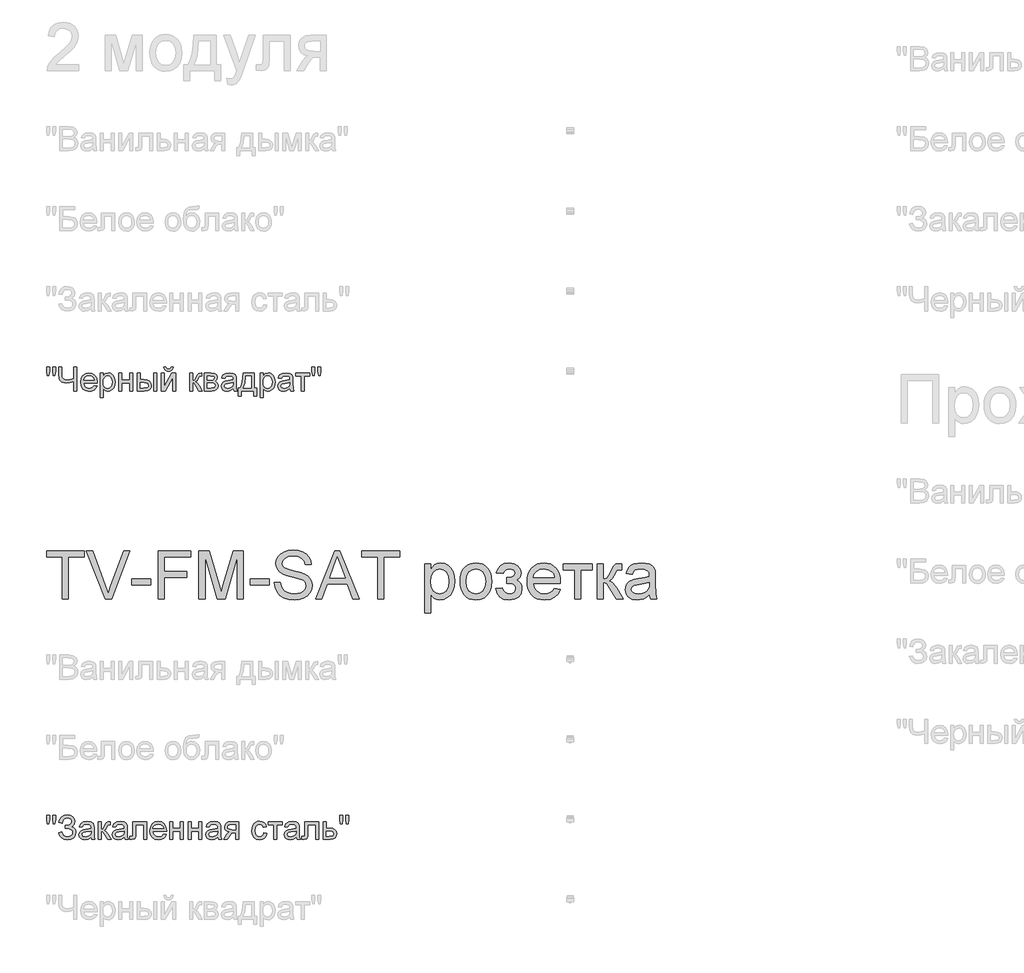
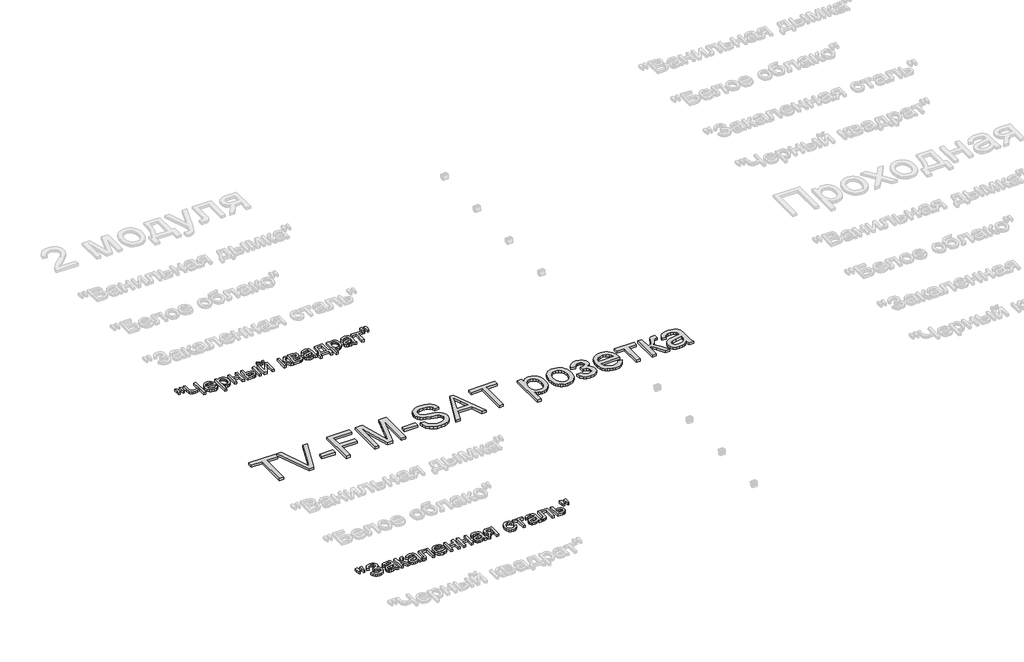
# One storey, part 21 of 168: 3 proxies.
"""IFC4 building model written with IfcOpenShell, lengths in millimetres."""

from ifc_helpers import new_model, si_unit, origin, origin_with_axes, place, context, project, spatial, polyline, outline, extrude, element, save

model = new_model("IFC4")

# Units and contexts
model_context = context("Model", 3, world=origin())
ifc_project = project(units=[si_unit("LENGTHUNIT", "METRE", prefix="MILLI")], contexts=[model_context])

# Site, building, storey
site = spatial("IfcSite", under=ifc_project)
building = spatial("IfcBuilding", under=site)
storey = spatial("IfcBuildingStorey", under=building, Name="Этаж 01", Elevation=0.0)

# Proxies
placement = place(None, origin())
element("IfcBuildingElementProxy", 1, Name="300 мм Arial 2", ObjectType="300 мм Arial 2", at=placement, inside=storey, context=model_context, shape_type="SweptSolid", body=[
    extrude(outline(polyline([(49174.4367343, -54566.8622977), (49174.4367343, -54303.1644836), (49075.550054, -54303.1644836), (49075.550054, -54265.4933673), (49310.9945309, -54265.4933673), (49310.9945309, -54303.1644836), (49212.1078506, -54303.1644836), (49212.1078506, -54566.8622977), (49174.4367343, -54566.8622977)])), origin_with_axes(), (0.0, 0.0, 1.0), 20.0),
    extrude(outline(polyline([(49442.4019796, -54566.8622977), (49322.4724491, -54265.4933673), (49362.7923158, -54265.4933673), (49443.0641671, -54482.6173208), (49459.3245513, -54531.5456262), (49475.3642063, -54482.6173208), (49555.8567869, -54265.4933673), (49596.1766535, -54265.4933673), (49481.3238946, -54566.8622977), (49442.4019796, -54566.8622977)])), origin_with_axes(), (0.0, 0.0, 1.0), 20.0),
    extrude(outline(polyline([(49607.6545718, -54477.3933965), (49607.6545718, -54439.7222802), (49725.3768102, -54439.7222802), (49725.3768102, -54477.3933965), (49607.6545718, -54477.3933965)])), origin_with_axes(), (0.0, 0.0, 1.0), 20.0),
    extrude(outline(polyline([(49772.4657056, -54566.8622977), (49772.4657056, -54265.4933673), (49974.9479558, -54265.4933673), (49974.9479558, -54303.1644836), (49810.1368219, -54303.1644836), (49810.1368219, -54392.6333848), (49951.4035081, -54392.6333848), (49951.4035081, -54430.3045011), (49810.1368219, -54430.3045011), (49810.1368219, -54566.8622977), (49772.4657056, -54566.8622977)])), origin_with_axes(), (0.0, 0.0, 1.0), 20.0),
    extrude(outline(polyline([(50026.7457407, -54566.8622977), (50026.7457407, -54265.4933673), (50091.5665482, -54265.4933673), (50153.2235706, -54477.9084313), (50165.6579821, -54522.2749999), (50179.1224631, -54474.2296113), (50239.7494159, -54265.4933673), (50304.5702235, -54265.4933673), (50304.5702235, -54566.8622977), (50266.8991071, -54566.8622977), (50266.8991071, -54303.1644836), (50191.1889925, -54566.8622977), (50140.1269716, -54566.8622977), (50064.416857, -54303.1644836), (50064.416857, -54566.8622977), (50026.7457407, -54566.8622977)])), origin_with_axes(), (0.0, 0.0, 1.0), 20.0),
    extrude(outline(polyline([(50346.9502293, -54477.3933965), (50346.9502293, -54439.7222802), (50464.6724678, -54439.7222802), (50464.6724678, -54477.3933965), (50346.9502293, -54477.3933965)])), origin_with_axes(), (0.0, 0.0, 1.0), 20.0),
    extrude(outline(polyline([(50497.6346945, -54463.2667279), (50535.3058108, -54463.2667279), (50539.6284243, -54484.1716223), (50547.4459167, -54500.9746324), (50559.6412048, -54514.3103547), (50577.0972055, -54524.8133857), (50598.4343612, -54531.6283996), (50622.2731145, -54533.900071), (50643.2607823, -54532.1802226), (50661.636488, -54527.0206777), (50676.5265117, -54518.8536974), (50687.0571338, -54508.1115431), (50693.3203248, -54495.7782992), (50695.4080551, -54482.83805), (50693.8445566, -54470.2288947), (50689.1540612, -54459.3303905), (50679.6259175, -54450.0321731), (50663.5494743, -54442.2238778), (50608.6982689, -54427.8396918), (50572.6918186, -54418.3207451), (50549.6532086, -54409.261651), (50530.9004239, -54396.5881163), (50517.6106869, -54381.229043), (50509.6920269, -54363.5155249), (50507.0524736, -54343.7786559), (50510.3174263, -54321.7149332), (50520.1122844, -54301.1411326), (50536.1795306, -54283.703526), (50558.2616473, -54271.0483854), (50584.7675451, -54263.3504547), (50614.1061342, -54260.7844777), (50645.8911386, -54263.4700163), (50673.7030174, -54271.526632), (50696.5484893, -54284.7887779), (50713.4342729, -54303.0909072), (50724.1212449, -54325.2925856), (50728.3702819, -54350.253379), (50690.6991656, -54350.253379), (50683.7829841, -54327.7757891), (50669.3620099, -54311.5521931), (50646.8292377, -54301.7297438), (50615.5776622, -54298.4555941), (50583.5903227, -54301.6929556), (50561.6461617, -54311.4050403), (50548.9542328, -54325.6972558), (50544.7235899, -54342.6750099), (50547.7218282, -54357.1511664), (50556.7165429, -54368.7946315), (50577.9801223, -54379.205692), (50618.2264125, -54389.8374817), (50659.7602898, -54399.9358424), (50684.8866301, -54408.7466162), (50706.3617415, -54422.4134323), (50721.3437358, -54439.2808218), (50730.1453125, -54459.1648436), (50733.0791714, -54481.8815568), (50729.7038541, -54505.1041078), (50719.5779022, -54526.9471013), (50703.1151829, -54545.7458712), (50680.7295635, -54559.8357516), (50653.8097985, -54568.6373284), (50623.7446425, -54571.5711873), (50586.8368813, -54568.4074021), (50556.4590256, -54558.9160466), (50532.2615873, -54543.0603326), (50513.8950787, -54520.8034719), (50502.1044608, -54493.6905689), (50497.6346945, -54463.2667279)])), origin_with_axes(), (0.0, 0.0, 1.0), 20.0),
    extrude(outline(polyline([(50754.4899036, -54566.8622977), (50874.787316, -54265.4933673), (50906.866626, -54265.4933673), (51027.1640384, -54566.8622977), (50987.3592065, -54566.8622977), (50952.8518754, -54472.684507), (50828.7284902, -54472.684507), (50794.2947354, -54566.8622977), (50754.4899036, -54566.8622977)]), holes=[polyline([(50842.5608532, -54435.0133907), (50939.0930887, -54435.0133907), (50911.9433975, -54360.9219568), (50890.826971, -54303.1644836), (50872.0649892, -54354.4472337), (50842.5608532, -54435.0133907)])]), origin_with_axes(), (0.0, 0.0, 1.0), 20.0),
    extrude(outline(polyline([(51142.7525613, -54566.8622977), (51142.7525613, -54303.1644836), (51043.865881, -54303.1644836), (51043.865881, -54265.4933673), (51279.3103579, -54265.4933673), (51279.3103579, -54303.1644836), (51180.4236776, -54303.1644836), (51180.4236776, -54566.8622977), (51142.7525613, -54566.8622977)])), origin_with_axes(), (0.0, 0.0, 1.0), 20.0),
    extrude(outline(polyline([(51434.7037126, -54651.6223094), (51434.7037126, -54345.5444894), (51472.3748289, -54345.5444894), (51472.3748289, -54382.4798418), (51484.6620876, -54364.2604859), (51498.4208742, -54351.2466604), (51514.4605292, -54343.438365), (51533.5903929, -54340.8355999), (51559.0662211, -54344.4776316), (51581.3414759, -54355.4037269), (51599.4780583, -54372.9516981), (51612.5378691, -54396.4593576), (51620.4289379, -54424.2160541), (51623.0592942, -54454.5111364), (51620.0886471, -54486.7284021), (51611.1767057, -54515.5427594), (51596.6085787, -54539.4918773), (51576.6693746, -54557.1134249), (51553.4468236, -54567.9567467), (51529.0286562, -54571.5711873), (51511.7106113, -54569.1523632), (51496.2503704, -54561.8958908), (51483.0158157, -54550.9422044), (51472.3748289, -54537.4317381), (51472.3748289, -54651.6223094), (51434.7037126, -54651.6223094)]), holes=[polyline([(51472.3748289, -54457.9692272), (51476.449122, -54491.7407943), (51488.6720013, -54515.3588184), (51506.7074161, -54529.2647578), (51528.2193158, -54533.900071), (51550.0807034, -54529.0992109), (51568.5759707, -54514.6966308), (51581.1851261, -54490.214084), (51585.3881779, -54455.173324), (51581.2862936, -54421.5856978), (51568.9806409, -54397.63658), (51550.9728172, -54383.2891821), (51529.7644202, -54378.5067162), (51508.4732497, -54383.5926848), (51489.7756473, -54398.8505905), (51476.7250335, -54423.8021869), (51472.3748289, -54457.9692272)])]), origin_with_axes(), (0.0, 0.0, 1.0), 20.0),
    extrude(outline(polyline([(51656.0215209, -54456.2033936), (51658.0586675, -54427.5407876), (51664.1701071, -54402.8421102), (51674.3558399, -54382.1073612), (51688.6158657, -54365.3365408), (51702.9724606, -54354.6173791), (51718.8189775, -54346.9608351), (51736.1554165, -54342.3669087), (51754.9817776, -54340.8355999), (51775.7648111, -54342.7003018), (51794.5566833, -54348.2944073), (51811.3573941, -54357.6179167), (51826.1669437, -54370.6708297), (51838.2541665, -54387.0116881), (51846.8878971, -54406.1990334), (51852.0681354, -54428.2328656), (51853.7948815, -54453.1131848), (51850.741461, -54491.1705772), (51841.5811993, -54520.1412843), (51826.5808109, -54541.837125), (51806.0070104, -54558.069918), (51781.5704488, -54568.19587), (51754.9817776, -54571.5711873), (51733.8952415, -54569.7133832), (51714.9286254, -54564.139971), (51698.0819293, -54554.8509506), (51683.3551532, -54541.8463221), (51671.3966891, -54525.3468146), (51662.854929, -54505.5731573), (51657.7298729, -54482.5253503), (51656.0215209, -54456.2033936)]), holes=[polyline([(51693.6926372, -54456.1298172), (51698.0520389, -54490.2232811), (51711.1302438, -54514.5126898), (51730.8119306, -54529.0532257), (51754.9817776, -54533.900071), (51779.0412601, -54529.0256345), (51798.6861587, -54514.4023252), (51811.7643636, -54489.7910197), (51816.1237652, -54454.9525948), (51811.7367724, -54421.8524123), (51798.5757941, -54397.8940973), (51778.9033044, -54383.3535615), (51754.9817776, -54378.5067162), (51730.8119306, -54383.3351674), (51711.1302438, -54397.820521), (51698.0520389, -54422.0547474), (51693.6926372, -54456.1298172)])]), origin_with_axes(), (0.0, 0.0, 1.0), 20.0),
    extrude(outline(polyline([(51947.9726723, -54467.9756174), (51947.9726723, -54430.3045011), (51977.6975375, -54428.8329731), (51992.7071229, -54420.9970866), (51998.0046237, -54413.6486438), (51999.7704572, -54404.6263379), (51997.4068154, -54393.9117748), (51990.31589, -54385.6068387), (51979.4909622, -54380.2817468), (51965.9253137, -54378.5067162), (51952.2125123, -54380.2725498), (51940.725397, -54385.5700505), (51931.4639678, -54394.3992184), (51924.4282246, -54406.7600534), (51882.0482188, -54402.0511639), (51893.2870137, -54375.2693546), (51910.3751324, -54356.1394909), (51933.3125748, -54344.6615726), (51962.0993409, -54340.8355999), (51993.5900397, -54345.4985042), (52017.428793, -54359.4872171), (52032.4383784, -54379.950653), (52037.4415735, -54404.0377267), (52035.6619444, -54416.3985617), (52030.3230569, -54427.4350216), (52021.4249112, -54437.1471062), (52008.9675071, -54445.5348157), (52023.508043, -54456.0010585), (52033.8731182, -54469.005687), (52040.0811268, -54484.5854895), (52042.1504631, -54502.7772542), (52036.8989476, -54530.5063596), (52021.1444011, -54552.4781117), (51995.9536815, -54566.7979184), (51962.3936465, -54571.5711873), (51929.5693755, -54567.1566033), (51904.4522323, -54553.9128515), (51887.0422169, -54531.8399318), (51877.3393292, -54500.9378442), (51919.7193351, -54496.2289547), (51926.0652995, -54512.1582451), (51936.7154833, -54524.0408335), (51950.4374817, -54531.4352616), (51965.9988901, -54533.900071), (51981.1556283, -54531.5364291), (51993.5164633, -54524.4455037), (52001.7386259, -54513.6757583), (52004.4793468, -54500.2756566), (52002.7778925, -54489.662261), (51997.6735299, -54480.4836053), (51983.1789792, -54469.8886038), (51955.3303122, -54467.7548882), (51947.9726723, -54467.9756174)])), origin_with_axes(), (0.0, 0.0, 1.0), 20.0),
    extrude(outline(polyline([(52244.1912548, -54500.9378442), (52281.1266071, -54505.6467337), (52267.818476, -54533.4770067), (52246.5824878, -54554.2807335), (52217.8968892, -54567.2485738), (52182.2399268, -54571.5711873), (52158.8656246, -54569.7064854), (52138.0389051, -54564.1123798), (52119.7597685, -54554.7888705), (52104.0282147, -54541.7359575), (52091.3776726, -54525.3169242), (52082.341571, -54505.8950541), (52076.9199101, -54483.4703472), (52075.1126898, -54458.0428036), (52076.9383042, -54431.7530365), (52082.4151474, -54408.5810693), (52091.5432194, -54388.526902), (52104.3225203, -54371.5905347), (52120.0126874, -54358.1352507), (52137.8733582, -54348.5243336), (52157.9045329, -54342.7577833), (52180.1062113, -54340.8355999), (52201.592819, -54342.7531848), (52221.0238862, -54348.5059395), (52238.3994127, -54358.093864), (52253.7193985, -54371.5169583), (52266.2250871, -54388.4165374), (52275.1577218, -54408.4339165), (52280.5173026, -54431.5690955), (52282.3038295, -54457.8220744), (52282.0831003, -54467.9756174), (52112.7838061, -54467.9756174), (52119.3045145, -54496.1737724), (52134.4520557, -54516.9039228), (52156.3134432, -54529.6510339), (52182.9756908, -54533.900071), (52203.0252596, -54531.9319023), (52219.9110431, -54526.0273963), (52233.6330416, -54515.8186709), (52244.1912548, -54500.9378442)]), holes=[polyline([(52112.7838061, -54430.3045011), (52244.6327132, -54430.3045011), (52239.5375476, -54410.4020852), (52229.5495514, -54396.165052), (52207.5869963, -54382.9213001), (52179.9590585, -54378.5067162), (52154.5660037, -54382.0291863), (52133.5691389, -54392.5965966), (52118.9734207, -54409.068513), (52112.7838061, -54430.3045011)])]), origin_with_axes(), (0.0, 0.0, 1.0), 20.0),
    extrude(outline(polyline([(52301.1393877, -54345.5444894), (52480.0771901, -54345.5444894), (52480.0771901, -54383.2156057), (52409.4438471, -54383.2156057), (52409.4438471, -54566.8622977), (52371.7727308, -54566.8622977), (52371.7727308, -54383.2156057), (52301.1393877, -54383.2156057), (52301.1393877, -54345.5444894)])), origin_with_axes(), (0.0, 0.0, 1.0), 20.0),
    extrude(outline(polyline([(52513.0394169, -54345.5444894), (52550.7105332, -54345.5444894), (52550.7105332, -54439.7222802), (52566.0328183, -54438.030023), (52575.9472381, -54432.9532515), (52584.7212237, -54419.7094997), (52596.6222062, -54393.5163016), (52613.8022954, -54359.4872171), (52628.9590336, -54348.413969), (52656.513395, -54345.5444894), (52663.7238821, -54345.5444894), (52663.7238821, -54383.4363349), (52653.5703391, -54383.2156057), (52635.1762393, -54387.1887313), (52622.2267931, -54411.9839778), (52607.0332667, -54438.8025752), (52585.7328991, -54451.9359624), (52597.6706699, -54457.2380617), (52609.498076, -54466.5960599), (52632.8217945, -54497.4797534), (52673.1416612, -54566.8622977), (52630.320197, -54566.8622977), (52590.8096707, -54498.9512814), (52570.9440429, -54470.2196976), (52561.6550226, -54465.0049703), (52550.7105332, -54463.2667279), (52550.7105332, -54566.8622977), (52513.0394169, -54566.8622977), (52513.0394169, -54345.5444894)])), origin_with_axes(), (0.0, 0.0, 1.0), 20.0),
    extrude(outline(polyline([(52837.952795, -54538.6089605), (52819.9541684, -54554.0416102), (52801.4221129, -54564.139971), (52781.9335642, -54569.7133832), (52761.065458, -54571.5711873), (52729.5839563, -54567.101421), (52706.3614054, -54553.6921223), (52692.0415987, -54533.3298539), (52687.2683298, -54508.0011785), (52689.0709516, -54492.3845878), (52694.4788169, -54478.2027369), (52702.8205412, -54466.0626311), (52713.4247397, -54456.5712756), (52739.8018787, -54444.2104405), (52772.3962235, -54438.5450578), (52810.9134684, -54432.5853695), (52837.7320658, -54425.5956116), (52837.952795, -54417.2079021), (52835.359227, -54400.3956949), (52827.5785228, -54389.3960233), (52810.1777044, -54381.229043), (52785.9342809, -54378.5067162), (52763.4934792, -54380.318535), (52747.8217062, -54385.7539915), (52737.1347343, -54395.806367), (52729.6483357, -54411.468943), (52691.9772194, -54406.7600534), (52698.5163218, -54386.1586617), (52708.2743917, -54369.9718539), (52722.1619371, -54357.5926248), (52741.0894657, -54348.413969), (52764.2384403, -54342.7301922), (52790.7903233, -54340.8355999), (52816.2569544, -54342.509463), (52836.4444789, -54347.5310522), (52851.6655964, -54355.0818302), (52862.2330067, -54364.3432594), (52869.2411587, -54375.7935865), (52873.7845014, -54389.9110581), (52875.6239113, -54422.8732848), (52875.6239113, -54469.741451), (52877.5368977, -54535.1876579), (52885.0416904, -54566.8622977), (52847.3705741, -54566.8622977), (52837.952795, -54538.6089605)]), holes=[polyline([(52837.952795, -54463.2667279), (52777.1786894, -54474.8182225), (52744.7682857, -54480.9250637), (52730.0897941, -54490.8578775), (52724.9394461, -54505.3524281), (52727.7445463, -54516.5544349), (52736.159847, -54525.7330907), (52750.001407, -54531.8583259), (52769.0852855, -54533.900071), (52789.3187953, -54531.6467937), (52807.1978602, -54524.8869621), (52821.6924109, -54514.9265571), (52831.7723775, -54503.0715598), (52836.2421438, -54490.8578775), (52837.7320658, -54473.9353058), (52837.952795, -54463.2667279)])]), origin_with_axes(), (0.0, 0.0, 1.0), 20.0),
])
element("IfcBuildingElementProxy", 2, Name="150", ObjectType="150", at=placement, inside=storey, context=model_context, shape_type="SweptSolid", body=[
    extrude(outline(polyline([(49080.1485789, -53170.3300622), (49075.550054, -53141.2305964), (49075.550054, -53116.1778325), (49094.3856121, -53116.1778325), (49094.3856121, -53141.2305964), (49090.2653338, -53170.3300622), (49080.1485789, -53170.3300622)])), origin_with_axes(), (0.0, 0.0, 1.0), 20.0),
    extrude(outline(polyline([(49117.7093306, -53170.3300622), (49113.2211703, -53141.2305964), (49113.2211703, -53116.1778325), (49132.0567284, -53116.1778325), (49132.0567284, -53141.2305964), (49127.6421445, -53170.3300622), (49117.7093306, -53170.3300622)])), origin_with_axes(), (0.0, 0.0, 1.0), 20.0),
    extrude(outline(polyline([(49263.9056355, -53266.8622977), (49245.0700773, -53266.8622977), (49245.0700773, -53206.5296505), (49220.0908899, -53214.6966308), (49198.4226404, -53217.4189576), (49183.7395502, -53215.556555), (49170.886673, -53209.9693472), (49160.926268, -53201.5172583), (49154.9205944, -53191.0602126), (49150.8922866, -53161.0594359), (49150.8922866, -53116.1778325), (49169.7278447, -53116.1778325), (49169.7278447, -53158.5210502), (49171.990319, -53178.8879171), (49178.7777418, -53190.8394834), (49188.7381468, -53196.6474204), (49200.5195677, -53198.5833994), (49222.2521966, -53196.2473488), (49245.0700773, -53189.2391968), (49245.0700773, -53116.1778325), (49263.9056355, -53116.1778325), (49263.9056355, -53266.8622977)])), origin_with_axes(), (0.0, 0.0, 1.0), 20.0),
    extrude(outline(polyline([(49371.9893657, -53233.900071), (49390.4570418, -53236.2545157), (49383.8029762, -53250.1696522), (49373.1849822, -53260.5715156), (49358.8421829, -53267.0554358), (49341.0137017, -53269.2167425), (49318.9131908, -53265.4873388), (49301.9078456, -53254.2991276), (49291.0645238, -53236.3786759), (49287.4500832, -53212.4525506), (49291.101312, -53187.7216835), (49302.0549984, -53169.2264162), (49318.8304174, -53157.6933157), (49339.9468439, -53153.8489488), (49360.4056814, -53157.6841186), (49376.7534375, -53169.189628), (49387.4725992, -53187.6481071), (49391.045653, -53212.342186), (49390.9352884, -53217.4189576), (49306.2856413, -53217.4189576), (49309.5459955, -53231.518035), (49317.1197661, -53241.8831103), (49328.0504599, -53248.2566658), (49341.3815837, -53250.3811843), (49359.8492598, -53246.444847), (49371.9893657, -53233.900071)]), holes=[polyline([(49306.2856413, -53198.5833994), (49372.2100949, -53198.5833994), (49369.6625121, -53188.6321915), (49364.668514, -53181.5136749), (49353.6872364, -53174.8917989), (49339.8732675, -53172.684507), (49327.1767401, -53174.445742), (49316.6783077, -53179.7294472), (49309.3804486, -53187.9654053), (49306.2856413, -53198.5833994)])]), origin_with_axes(), (0.0, 0.0, 1.0), 20.0),
    extrude(outline(polyline([(49409.8812112, -53309.2423036), (49409.8812112, -53156.2033936), (49428.7167693, -53156.2033936), (49428.7167693, -53174.6710697), (49441.739792, -53159.054479), (49459.3245513, -53153.8489488), (49472.0624654, -53155.6699647), (49483.2000928, -53161.1330123), (49492.268384, -53169.9069979), (49498.7982894, -53181.6608277), (49504.0590019, -53210.6867171), (49502.5736784, -53226.7953499), (49498.1177077, -53241.2025286), (49490.8336442, -53253.1770875), (49480.8640422, -53261.9878613), (49469.2527667, -53267.4095222), (49457.043683, -53269.2167425), (49440.6545401, -53264.3790943), (49428.7167693, -53252.1470179), (49428.7167693, -53309.2423036), (49409.8812112, -53309.2423036)]), holes=[polyline([(49428.7167693, -53212.4157624), (49430.7539159, -53229.301546), (49436.8653555, -53241.1105581), (49445.8830629, -53248.0635278), (49456.6390128, -53250.3811843), (49467.5697066, -53247.9807543), (49476.8173402, -53240.7794643), (49483.1219179, -53228.5381909), (49485.2234438, -53211.0178109), (49483.1725017, -53194.2239978), (49477.0196753, -53182.2494388), (49468.0157635, -53175.0757399), (49457.411565, -53172.684507), (49446.7659797, -53175.2274913), (49437.4171785, -53182.8564441), (49430.8918716, -53195.3322423), (49428.7167693, -53212.4157624)])]), origin_with_axes(), (0.0, 0.0, 1.0), 20.0),
    extrude(outline(polyline([(49525.2490049, -53156.2033936), (49544.084563, -53156.2033936), (49544.084563, -53198.5833994), (49593.5279032, -53198.5833994), (49593.5279032, -53156.2033936), (49612.3634613, -53156.2033936), (49612.3634613, -53266.8622977), (49593.5279032, -53266.8622977), (49593.5279032, -53217.4189576), (49544.084563, -53217.4189576), (49544.084563, -53266.8622977), (49525.2490049, -53266.8622977), (49525.2490049, -53156.2033936)])), origin_with_axes(), (0.0, 0.0, 1.0), 20.0),
    extrude(outline(polyline([(49744.2123684, -53156.2033936), (49763.0479266, -53156.2033936), (49763.0479266, -53266.8622977), (49744.2123684, -53266.8622977), (49744.2123684, -53156.2033936)])), origin_with_axes(), (0.0, 0.0, 1.0), 20.0),
    extrude(outline(polyline([(49640.6167986, -53156.2033936), (49659.4523567, -53156.2033936), (49659.4523567, -53196.2289547), (49682.739287, -53196.2289547), (49702.8670307, -53198.587998), (49717.780047, -53205.6651278), (49727.0092866, -53216.8901272), (49730.0856998, -53231.692779), (49727.5059273, -53245.1710556), (49719.7666098, -53256.5432078), (49706.3619096, -53264.2825252), (49686.785989, -53266.8622977), (49640.6167986, -53266.8622977), (49640.6167986, -53156.2033936)]), holes=[polyline([(49659.4523567, -53248.0267396), (49678.8029497, -53248.0267396), (49703.7821371, -53244.0720081), (49709.3831405, -53239.0090322), (49711.2501416, -53231.7295672), (49705.7135176, -53220.1412843), (49696.8337659, -53216.3337057), (49681.267759, -53215.0645128), (49659.4523567, -53215.0645128), (49659.4523567, -53248.0267396)])]), origin_with_axes(), (0.0, 0.0, 1.0), 20.0),
    extrude(outline(polyline([(49791.3012638, -53156.2033936), (49810.1368219, -53156.2033936), (49810.1368219, -53240.5955233), (49856.4163769, -53156.2033936), (49880.770165, -53156.2033936), (49880.770165, -53266.8622977), (49861.9346069, -53266.8622977), (49861.9346069, -53182.9852028), (49815.9493575, -53266.8622977), (49791.3012638, -53266.8622977), (49791.3012638, -53156.2033936)])), origin_with_axes(), (0.0, 0.0, 1.0), 20.0),
    extrude(outline(polyline([(49852.5168278, -53116.1778325), (49866.6434964, -53116.1778325), (49863.6038714, -53128.2397634), (49857.5016288, -53137.1287121), (49848.6126801, -53142.6055553), (49837.2129368, -53144.4311697), (49824.8429047, -53142.6193509), (49815.2503817, -53137.1838944), (49808.6928851, -53128.3087413), (49805.4279324, -53116.1778325), (49819.554601, -53116.1778325), (49824.8521017, -53126.7912281), (49835.5206796, -53130.3045011), (49847.219327, -53126.9015927), (49852.5168278, -53116.1778325)])), origin_with_axes(), (0.0, 0.0, 1.0), 20.0),
    extrude(outline(polyline([(49967.8846215, -53156.2033936), (49986.7201796, -53156.2033936), (49986.7201796, -53203.292289), (49999.3385321, -53199.9077746), (50009.6760161, -53180.1892997), (50018.2660607, -53163.1747574), (50025.8444298, -53157.6381334), (50039.6216105, -53156.2033936), (50043.2268541, -53156.2033936), (50043.2268541, -53175.1493163), (50038.1500825, -53175.0389517), (50028.9530327, -53177.0255145), (50022.4783096, -53189.4231377), (50014.8815464, -53202.8324365), (50004.2313626, -53209.3991301), (50016.113951, -53216.7291788), (50027.7758103, -53232.1710256), (50047.9357436, -53266.8622977), (50026.5250115, -53266.8622977), (50006.7697484, -53232.9067896), (49996.8369345, -53218.5409977), (49986.7201796, -53215.0645128), (49986.7201796, -53266.8622977), (49967.8846215, -53266.8622977), (49967.8846215, -53156.2033936)])), origin_with_axes(), (0.0, 0.0, 1.0), 20.0),
    extrude(outline(polyline([(50059.7079675, -53156.2033936), (50101.2050565, -53156.2033936), (50123.9585579, -53158.7233853), (50136.7608514, -53167.9572233), (50142.1135344, -53184.0520606), (50138.8761728, -53197.1302655), (50129.1273, -53206.4560741), (50141.7824406, -53216.6647995), (50146.8224239, -53234.4151058), (50143.6310476, -53248.7717006), (50136.0434815, -53258.8792584), (50124.0321343, -53264.8665379), (50107.569415, -53266.8622977), (50059.7079675, -53266.8622977), (50059.7079675, -53156.2033936)]), holes=[polyline([(50078.5435256, -53198.5833994), (50097.1583546, -53198.5833994), (50112.5174279, -53197.6269062), (50119.9854324, -53193.8009335), (50123.2779762, -53186.884752), (50121.8340394, -53181.2653545), (50117.5022289, -53177.6509139), (50097.7469658, -53175.0389517), (50078.5435256, -53175.0389517), (50078.5435256, -53198.5833994)]), polyline([(50078.5435256, -53248.0267396), (50101.6465149, -53248.0267396), (50122.137542, -53244.6238311), (50126.377382, -53239.9839195), (50127.9868658, -53232.8700014), (50124.7678983, -53223.8017102), (50116.3801888, -53218.5226036), (50099.8071049, -53217.4189576), (50078.5435256, -53217.4189576), (50078.5435256, -53248.0267396)])]), origin_with_axes(), (0.0, 0.0, 1.0), 20.0),
    extrude(outline(polyline([(50241.0002147, -53252.7356291), (50222.7348736, -53265.5011344), (50202.5565462, -53269.2167425), (50186.8157953, -53266.9818594), (50175.2045198, -53260.27721), (50168.0446165, -53250.0960758), (50165.6579821, -53237.4317381), (50169.2632256, -53222.5325173), (50178.736187, -53211.7167867), (50191.9247565, -53205.5363691), (50208.2219289, -53202.7036778), (50240.8898501, -53196.2289547), (50241.0002147, -53192.0350999), (50239.7034307, -53183.6289963), (50235.8130786, -53178.1291605), (50227.1126694, -53174.0456704), (50214.9909576, -53172.684507), (50195.9346703, -53176.3081446), (50186.847985, -53189.1656204), (50168.0124268, -53186.8111756), (50176.161013, -53168.4170758), (50192.56855, -53157.6381334), (50217.4189788, -53153.8489488), (50240.2460566, -53157.196675), (50253.1403205, -53165.6027786), (50258.9160679, -53178.3866779), (50259.8357728, -53194.8677913), (50259.8357728, -53218.3018744), (50260.792266, -53251.0249778), (50264.5446624, -53266.8622977), (50245.7091042, -53266.8622977), (50241.0002147, -53252.7356291)]), holes=[polyline([(50241.0002147, -53215.0645128), (50210.6131619, -53220.8402601), (50194.40796, -53223.8936807), (50187.0687142, -53228.8600876), (50184.4935402, -53236.1073629), (50190.1037407, -53246.2976942), (50206.5664599, -53250.3811843), (50225.6227473, -53245.8746299), (50237.9100059, -53234.9669288), (50240.8898501, -53220.3988017), (50241.0002147, -53215.0645128)])]), origin_with_axes(), (0.0, 0.0, 1.0), 20.0),
    extrude(outline(polyline([(50302.2157787, -53156.2033936), (50372.8491218, -53156.2033936), (50372.8491218, -53248.0267396), (50386.9757904, -53248.0267396), (50386.9757904, -53297.4700797), (50368.1402322, -53297.4700797), (50368.1402322, -53266.8622977), (50290.4435548, -53266.8622977), (50290.4435548, -53297.4700797), (50271.6079967, -53297.4700797), (50271.6079967, -53248.0267396), (50283.3802205, -53248.0267396), (50291.9380754, -53232.5619002), (50297.9299534, -53212.1030628), (50302.2157787, -53156.2033936)]), holes=[polyline([(50318.6968921, -53175.0389517), (50314.2823081, -53217.9523865), (50304.5702235, -53248.0267396), (50354.0135636, -53248.0267396), (50354.0135636, -53175.0389517), (50318.6968921, -53175.0389517)])]), origin_with_axes(), (0.0, 0.0, 1.0), 20.0),
    extrude(outline(polyline([(50408.1657933, -53309.2423036), (50408.1657933, -53156.2033936), (50427.0013514, -53156.2033936), (50427.0013514, -53174.6710697), (50440.0243741, -53159.054479), (50457.6091334, -53153.8489488), (50470.3470475, -53155.6699647), (50481.4846749, -53161.1330123), (50490.5529661, -53169.9069979), (50497.0828715, -53181.6608277), (50502.3435841, -53210.6867171), (50500.8582605, -53226.7953499), (50496.4022898, -53241.2025286), (50489.1182263, -53253.1770875), (50479.1486243, -53261.9878613), (50467.5373488, -53267.4095222), (50455.3282651, -53269.2167425), (50438.9391222, -53264.3790943), (50427.0013514, -53252.1470179), (50427.0013514, -53309.2423036), (50408.1657933, -53309.2423036)]), holes=[polyline([(50427.0013514, -53212.4157624), (50429.038498, -53229.301546), (50435.1499376, -53241.1105581), (50444.167645, -53248.0635278), (50454.9235949, -53250.3811843), (50465.8542887, -53247.9807543), (50475.1019223, -53240.7794643), (50481.4065, -53228.5381909), (50483.5080259, -53211.0178109), (50481.4570838, -53194.2239978), (50475.3042574, -53182.2494388), (50466.3003456, -53175.0757399), (50455.6961471, -53172.684507), (50445.0505618, -53175.2274913), (50435.7017606, -53182.8564441), (50429.1764537, -53195.3322423), (50427.0013514, -53212.4157624)])]), origin_with_axes(), (0.0, 0.0, 1.0), 20.0),
    extrude(outline(polyline([(50594.1669301, -53252.7356291), (50575.901589, -53265.5011344), (50555.7232616, -53269.2167425), (50539.9825107, -53266.9818594), (50528.3712352, -53260.27721), (50521.2113319, -53250.0960758), (50518.8246974, -53237.4317381), (50522.429941, -53222.5325173), (50531.9029024, -53211.7167867), (50545.0914719, -53205.5363691), (50561.3886443, -53202.7036778), (50594.0565655, -53196.2289547), (50594.1669301, -53192.0350999), (50592.870146, -53183.6289963), (50588.9797939, -53178.1291605), (50580.2793847, -53174.0456704), (50568.157673, -53172.684507), (50549.1013856, -53176.3081446), (50540.0147004, -53189.1656204), (50521.1791422, -53186.8111756), (50529.3277284, -53168.4170758), (50545.7352654, -53157.6381334), (50570.5856942, -53153.8489488), (50593.412772, -53157.196675), (50606.3070359, -53165.6027786), (50612.0827832, -53178.3866779), (50613.0024882, -53194.8677913), (50613.0024882, -53218.3018744), (50613.9589814, -53251.0249778), (50617.7113777, -53266.8622977), (50598.8758196, -53266.8622977), (50594.1669301, -53252.7356291)]), holes=[polyline([(50594.1669301, -53215.0645128), (50563.7798773, -53220.8402601), (50547.5746754, -53223.8936807), (50540.2354296, -53228.8600876), (50537.6602556, -53236.1073629), (50543.270456, -53246.2976942), (50559.7331753, -53250.3811843), (50578.7894627, -53245.8746299), (50591.0767213, -53234.9669288), (50594.0565655, -53220.3988017), (50594.1669301, -53215.0645128)])]), origin_with_axes(), (0.0, 0.0, 1.0), 20.0),
    extrude(outline(polyline([(50629.4836016, -53156.2033936), (50718.9525028, -53156.2033936), (50718.9525028, -53175.0389517), (50683.6358313, -53175.0389517), (50683.6358313, -53266.8622977), (50664.8002731, -53266.8622977), (50664.8002731, -53175.0389517), (50629.4836016, -53175.0389517), (50629.4836016, -53156.2033936)])), origin_with_axes(), (0.0, 0.0, 1.0), 20.0),
    extrude(outline(polyline([(50735.3232516, -53170.3300622), (50730.7247267, -53141.2305964), (50730.7247267, -53116.1778325), (50749.5602848, -53116.1778325), (50749.5602848, -53141.2305964), (50745.4400065, -53170.3300622), (50735.3232516, -53170.3300622)])), origin_with_axes(), (0.0, 0.0, 1.0), 20.0),
    extrude(outline(polyline([(50772.8840033, -53170.3300622), (50768.395843, -53141.2305964), (50768.395843, -53116.1778325), (50787.2314011, -53116.1778325), (50787.2314011, -53141.2305964), (50782.8168172, -53170.3300622), (50772.8840033, -53170.3300622)])), origin_with_axes(), (0.0, 0.0, 1.0), 20.0),
])
element("IfcBuildingElementProxy", 3, Name="150", ObjectType="150", at=placement, inside=storey, context=model_context, shape_type="SweptSolid", body=[
    extrude(outline(polyline([(49080.1485789, -55970.3300622), (49075.550054, -55941.2305964), (49075.550054, -55916.1778325), (49094.3856121, -55916.1778325), (49094.3856121, -55941.2305964), (49090.2653338, -55970.3300622), (49080.1485789, -55970.3300622)])), origin_with_axes(), (0.0, 0.0, 1.0), 20.0),
    extrude(outline(polyline([(49117.7093306, -55970.3300622), (49113.2211703, -55941.2305964), (49113.2211703, -55916.1778325), (49132.0567284, -55916.1778325), (49132.0567284, -55941.2305964), (49127.6421445, -55970.3300622), (49117.7093306, -55970.3300622)])), origin_with_axes(), (0.0, 0.0, 1.0), 20.0),
    extrude(outline(polyline([(49150.8922866, -56024.4822919), (49169.7278447, -56019.7734024), (49181.2977335, -56040.172459), (49192.2284273, -56047.829003), (49206.2217387, -56050.3811843), (49220.398991, -56048.4635995), (49231.2193202, -56042.7108448), (49238.0757209, -56034.2449603), (49240.3611878, -56024.1879863), (49237.8641888, -56013.6527657), (49230.3731916, -56005.517975), (49218.5779752, -56000.3170433), (49203.1683181, -55998.5833994), (49193.2722924, -55998.5833994), (49193.2722924, -55979.7478413), (49214.591054, -55978.221131), (49227.6324708, -55970.4220327), (49233.2978535, -55956.1666054), (49231.4124583, -55947.2960508), (49225.7562726, -55939.6670979), (49216.8811195, -55934.4109839), (49205.3388219, -55932.6589459), (49186.1169876, -55938.0484171), (49175.117316, -55952.3406326), (49172.0822895, -55965.6211727), (49153.2467313, -55960.9122831), (49159.0983543, -55940.3108914), (49169.7002536, -55925.5956116), (49185.0524291, -55916.7664437), (49205.1548809, -55913.8233877), (49224.5468605, -55916.8814068), (49239.4598769, -55926.0554641), (49248.965028, -55939.3222085), (49252.1334117, -55954.6582892), (49247.2037929, -55973.3007093), (49232.4149367, -55987.2158458), (49242.8903765, -55992.0396984), (49251.5080123, -56000.1836861), (49257.2745625, -56010.948833), (49259.196746, -56023.6361633), (49255.508729, -56041.4738415), (49244.444678, -56056.1385376), (49227.2921799, -56065.9471913), (49205.3388219, -56069.2167425), (49186.2365493, -56066.4208393), (49170.7947025, -56058.0331298), (49159.0132816, -56044.053614), (49150.8922866, -56024.4822919)])), origin_with_axes(), (0.0, 0.0, 1.0), 20.0),
    extrude(outline(polyline([(49353.3745367, -56052.7356291), (49335.1091957, -56065.5011344), (49314.9308682, -56069.2167425), (49299.1901174, -56066.9818594), (49287.5788419, -56060.27721), (49280.4189386, -56050.0960758), (49278.0323041, -56037.4317381), (49281.6375477, -56022.5325173), (49291.110509, -56011.7167867), (49304.2990786, -56005.5363691), (49320.596251, -56002.7036778), (49353.2641721, -55996.2289547), (49353.3745367, -55992.0350999), (49352.0777527, -55983.6289963), (49348.1874006, -55978.1291605), (49339.4869914, -55974.0456704), (49327.3652797, -55972.684507), (49308.3089923, -55976.3081446), (49299.222307, -55989.1656204), (49280.3867489, -55986.8111756), (49288.5353351, -55968.4170758), (49304.9428721, -55957.6381334), (49329.7933008, -55953.8489488), (49352.6203786, -55957.196675), (49365.5146426, -55965.6027786), (49371.2903899, -55978.3866779), (49372.2100949, -55994.8677913), (49372.2100949, -56018.3018744), (49373.1665881, -56051.0249778), (49376.9189844, -56066.8622977), (49358.0834263, -56066.8622977), (49353.3745367, -56052.7356291)]), holes=[polyline([(49353.3745367, -56015.0645128), (49322.9874839, -56020.8402601), (49306.782282, -56023.8936807), (49299.4430362, -56028.8600876), (49296.8678623, -56036.1073629), (49302.4780627, -56046.2976942), (49318.940782, -56050.3811843), (49337.9970693, -56045.8746299), (49350.284328, -56034.9669288), (49353.2641721, -56020.3988017), (49353.3745367, -56015.0645128)])]), origin_with_axes(), (0.0, 0.0, 1.0), 20.0),
    extrude(outline(polyline([(49398.1089873, -55956.2033936), (49416.9445455, -55956.2033936), (49416.9445455, -56003.292289), (49429.5628979, -55999.9077746), (49439.900382, -55980.1892997), (49448.4904266, -55963.1747574), (49456.0687957, -55957.6381334), (49469.8459764, -55956.2033936), (49473.4512199, -55956.2033936), (49473.4512199, -55975.1493163), (49468.3744484, -55975.0389517), (49459.1773985, -55977.0255145), (49452.7026754, -55989.4231377), (49445.1059122, -56002.8324365), (49434.4557285, -56009.3991301), (49446.3383169, -56016.7291788), (49458.0001762, -56032.1710256), (49478.1601095, -56066.8622977), (49456.7493774, -56066.8622977), (49436.9941142, -56032.9067896), (49427.0613004, -56018.5409977), (49416.9445455, -56015.0645128), (49416.9445455, -56066.8622977), (49398.1089873, -56066.8622977), (49398.1089873, -55956.2033936)])), origin_with_axes(), (0.0, 0.0, 1.0), 20.0),
    extrude(outline(polyline([(49560.5656764, -56052.7356291), (49542.3003353, -56065.5011344), (49522.1220079, -56069.2167425), (49506.381257, -56066.9818594), (49494.7699816, -56060.27721), (49487.6100782, -56050.0960758), (49485.2234438, -56037.4317381), (49488.8286873, -56022.5325173), (49498.3016487, -56011.7167867), (49511.4902183, -56005.5363691), (49527.7873906, -56002.7036778), (49560.4553118, -55996.2289547), (49560.5656764, -55992.0350999), (49559.2688924, -55983.6289963), (49555.3785403, -55978.1291605), (49546.6781311, -55974.0456704), (49534.5564193, -55972.684507), (49515.500132, -55976.3081446), (49506.4134467, -55989.1656204), (49487.5778886, -55986.8111756), (49495.7264748, -55968.4170758), (49512.1340117, -55957.6381334), (49536.9844405, -55953.8489488), (49559.8115183, -55957.196675), (49572.7057822, -55965.6027786), (49578.4815296, -55978.3866779), (49579.4012346, -55994.8677913), (49579.4012346, -56018.3018744), (49580.3577277, -56051.0249778), (49584.1101241, -56066.8622977), (49565.2745659, -56066.8622977), (49560.5656764, -56052.7356291)]), holes=[polyline([(49560.5656764, -56015.0645128), (49530.1786236, -56020.8402601), (49513.9734217, -56023.8936807), (49506.6341759, -56028.8600876), (49504.0590019, -56036.1073629), (49509.6692024, -56046.2976942), (49526.1319217, -56050.3811843), (49545.188209, -56045.8746299), (49557.4754676, -56034.9669288), (49560.4553118, -56020.3988017), (49560.5656764, -56015.0645128)])]), origin_with_axes(), (0.0, 0.0, 1.0), 20.0),
    extrude(outline(polyline([(49614.7179061, -55956.2033936), (49699.4779178, -55956.2033936), (49699.4779178, -56066.7519331), (49680.6423596, -56066.7519331), (49680.6423596, -55975.0389517), (49633.5534643, -55975.0389517), (49633.5534643, -56027.830018), (49632.2842714, -56052.1838061), (49625.3129076, -56062.4661079), (49608.8317942, -56066.8622977), (49593.5279032, -56065.9058045), (49593.5279032, -56048.0267396), (49601.9524009, -56048.0267396), (49610.4688691, -56046.8679113), (49613.8717775, -56043.1890913), (49614.7179061, -56026.7631603), (49614.7179061, -55956.2033936)])), origin_with_axes(), (0.0, 0.0, 1.0), 20.0),
    extrude(outline(polyline([(49805.2072032, -56033.900071), (49823.6748794, -56036.2545157), (49817.0208138, -56050.1696522), (49806.4028197, -56060.5715156), (49792.0600204, -56067.0554358), (49774.2315392, -56069.2167425), (49752.1310283, -56065.4873388), (49735.1256831, -56054.2991276), (49724.2823613, -56036.3786759), (49720.6679207, -56012.4525506), (49724.3191495, -55987.7216835), (49735.2728359, -55969.2264162), (49752.0482549, -55957.6933157), (49773.1646814, -55953.8489488), (49793.6235189, -55957.6841186), (49809.971275, -55969.189628), (49820.6904367, -55987.6481071), (49824.2634906, -56012.342186), (49824.153126, -56017.4189576), (49739.5034789, -56017.4189576), (49742.763833, -56031.518035), (49750.3376036, -56041.8831103), (49761.2682974, -56048.2566658), (49774.5994212, -56050.3811843), (49793.0670974, -56046.444847), (49805.2072032, -56033.900071)]), holes=[polyline([(49739.5034789, -55998.5833994), (49805.4279324, -55998.5833994), (49802.8803496, -55988.6321915), (49797.8863515, -55981.5136749), (49786.9050739, -55974.8917989), (49773.091105, -55972.684507), (49760.3945777, -55974.445742), (49749.8961452, -55979.7294472), (49742.5982861, -55987.9654053), (49739.5034789, -55998.5833994)])]), origin_with_axes(), (0.0, 0.0, 1.0), 20.0),
    extrude(outline(polyline([(49843.0990487, -55956.2033936), (49861.9346069, -55956.2033936), (49861.9346069, -55998.5833994), (49911.377947, -55998.5833994), (49911.377947, -55956.2033936), (49930.2135052, -55956.2033936), (49930.2135052, -56066.8622977), (49911.377947, -56066.8622977), (49911.377947, -56017.4189576), (49861.9346069, -56017.4189576), (49861.9346069, -56066.8622977), (49843.0990487, -56066.8622977), (49843.0990487, -55956.2033936)])), origin_with_axes(), (0.0, 0.0, 1.0), 20.0),
    extrude(outline(polyline([(49958.4668424, -55956.2033936), (49977.3024005, -55956.2033936), (49977.3024005, -55998.5833994), (50026.7457407, -55998.5833994), (50026.7457407, -55956.2033936), (50045.5812988, -55956.2033936), (50045.5812988, -56066.8622977), (50026.7457407, -56066.8622977), (50026.7457407, -56017.4189576), (49977.3024005, -56017.4189576), (49977.3024005, -56066.8622977), (49958.4668424, -56066.8622977), (49958.4668424, -55956.2033936)])), origin_with_axes(), (0.0, 0.0, 1.0), 20.0),
    extrude(outline(polyline([(50144.4679792, -56052.7356291), (50126.2026381, -56065.5011344), (50106.0243107, -56069.2167425), (50090.2835598, -56066.9818594), (50078.6722843, -56060.27721), (50071.512381, -56050.0960758), (50069.1257465, -56037.4317381), (50072.7309901, -56022.5325173), (50082.2039515, -56011.7167867), (50095.392521, -56005.5363691), (50111.6896934, -56002.7036778), (50144.3576146, -55996.2289547), (50144.4679792, -55992.0350999), (50143.1711951, -55983.6289963), (50139.280843, -55978.1291605), (50130.5804338, -55974.0456704), (50118.4587221, -55972.684507), (50099.4024347, -55976.3081446), (50090.3157495, -55989.1656204), (50071.4801913, -55986.8111756), (50079.6287775, -55968.4170758), (50096.0363145, -55957.6381334), (50120.8867433, -55953.8489488), (50143.7138211, -55957.196675), (50156.608085, -55965.6027786), (50162.3838323, -55978.3866779), (50163.3035373, -55994.8677913), (50163.3035373, -56018.3018744), (50164.2600305, -56051.0249778), (50168.0124268, -56066.8622977), (50149.1768687, -56066.8622977), (50144.4679792, -56052.7356291)]), holes=[polyline([(50144.4679792, -56015.0645128), (50114.0809264, -56020.8402601), (50097.8757245, -56023.8936807), (50090.5364787, -56028.8600876), (50087.9613047, -56036.1073629), (50093.5715051, -56046.2976942), (50110.0342244, -56050.3811843), (50129.0905118, -56045.8746299), (50141.3777704, -56034.9669288), (50144.3576146, -56020.3988017), (50144.4679792, -56015.0645128)])]), origin_with_axes(), (0.0, 0.0, 1.0), 20.0),
    extrude(outline(polyline([(50273.9624415, -55956.2033936), (50273.9624415, -56066.8622977), (50255.1268833, -56066.8622977), (50255.1268833, -56024.4822919), (50244.8629756, -56024.4822919), (50230.8834598, -56026.8735249), (50217.7500726, -56042.949968), (50202.7404872, -56066.8622977), (50180.9618731, -56066.8622977), (50199.8710076, -56036.6223977), (50208.2219289, -56025.7698789), (50215.9106626, -56020.9506247), (50203.0347928, -56017.0050903), (50193.9848957, -56009.5094947), (50188.6322127, -55999.5398926), (50186.847985, -55988.172339), (50189.2852032, -55975.278075), (50196.5968579, -55965.0693497), (50208.5254316, -55958.4198826), (50224.8134069, -55956.2033936), (50273.9624415, -55956.2033936)]), holes=[polyline([(50255.1268833, -55975.0389517), (50230.2948486, -55975.0389517), (50217.4695626, -55976.1288021), (50210.1900976, -55979.3983534), (50205.6835431, -55989.6070787), (50207.3436107, -55996.7853762), (50212.3238132, -56001.7655787), (50235.8498668, -56005.6467337), (50255.1268833, -56005.6467337), (50255.1268833, -55975.0389517)])]), origin_with_axes(), (0.0, 0.0, 1.0), 20.0),
    extrude(outline(polyline([(50431.710241, -56026.8367367), (50450.5457991, -56029.1911814), (50445.2942837, -56045.9436078), (50435.4258491, -56058.6033469), (50421.8693976, -56066.5633936), (50405.5538311, -56069.2167425), (50385.518058, -56065.5149299), (50369.8508835, -56054.4094922), (50359.7387272, -56036.387873), (50356.3680084, -56011.9375159), (50357.8073467, -55995.1758924), (50362.1253616, -55980.6491522), (50369.391031, -55968.918315), (50379.6733328, -55960.5444011), (50391.974387, -55955.5228119), (50405.2963137, -55953.8489488), (50421.2118085, -55956.1482113), (50433.9359271, -55963.0459987), (50443.0639991, -55974.174429), (50448.1913544, -55989.1656204), (50429.3557962, -55991.5200651), (50420.6185988, -55977.4117906), (50405.4434665, -55972.684507), (50393.271171, -55975.0113606), (50383.6096701, -55981.9919214), (50377.3050924, -55994.0032686), (50375.2035665, -56011.4224811), (50377.2591072, -56029.0762183), (50383.4257291, -56041.1289522), (50392.9124861, -56048.0681263), (50404.9284317, -56050.3811843), (50414.6819031, -56048.9372475), (50422.678738, -56044.605437), (50428.4958721, -56037.2753883), (50431.710241, -56026.8367367)])), origin_with_axes(), (0.0, 0.0, 1.0), 20.0),
    extrude(outline(polyline([(50457.6091334, -55956.2033936), (50547.0780347, -55956.2033936), (50547.0780347, -55975.0389517), (50511.7613631, -55975.0389517), (50511.7613631, -56066.8622977), (50492.925805, -56066.8622977), (50492.925805, -55975.0389517), (50457.6091334, -55975.0389517), (50457.6091334, -55956.2033936)])), origin_with_axes(), (0.0, 0.0, 1.0), 20.0),
    extrude(outline(polyline([(50634.1924911, -56052.7356291), (50615.9271501, -56065.5011344), (50595.7488226, -56069.2167425), (50580.0080718, -56066.9818594), (50568.3967963, -56060.27721), (50561.236893, -56050.0960758), (50558.8502585, -56037.4317381), (50562.4555021, -56022.5325173), (50571.9284634, -56011.7167867), (50585.117033, -56005.5363691), (50601.4142054, -56002.7036778), (50634.0821265, -55996.2289547), (50634.1924911, -55992.0350999), (50632.8957071, -55983.6289963), (50629.005355, -55978.1291605), (50620.3049458, -55974.0456704), (50608.1832341, -55972.684507), (50589.1269467, -55976.3081446), (50580.0402614, -55989.1656204), (50561.2047033, -55986.8111756), (50569.3532895, -55968.4170758), (50585.7608265, -55957.6381334), (50610.6112552, -55953.8489488), (50633.438333, -55957.196675), (50646.332597, -55965.6027786), (50652.1083443, -55978.3866779), (50653.0280493, -55994.8677913), (50653.0280493, -56018.3018744), (50653.9845425, -56051.0249778), (50657.7369388, -56066.8622977), (50638.9013807, -56066.8622977), (50634.1924911, -56052.7356291)]), holes=[polyline([(50634.1924911, -56015.0645128), (50603.8054383, -56020.8402601), (50587.6002364, -56023.8936807), (50580.2609906, -56028.8600876), (50577.6858167, -56036.1073629), (50583.2960171, -56046.2976942), (50599.7587364, -56050.3811843), (50618.8150237, -56045.8746299), (50631.1022824, -56034.9669288), (50634.0821265, -56020.3988017), (50634.1924911, -56015.0645128)])]), origin_with_axes(), (0.0, 0.0, 1.0), 20.0),
    extrude(outline(polyline([(50688.3447208, -55956.2033936), (50773.1047325, -55956.2033936), (50773.1047325, -56066.7519331), (50754.2691744, -56066.7519331), (50754.2691744, -55975.0389517), (50707.180279, -55975.0389517), (50707.180279, -56027.830018), (50705.9110861, -56052.1838061), (50698.9397223, -56062.4661079), (50682.4586089, -56066.8622977), (50667.1547179, -56065.9058045), (50667.1547179, -56048.0267396), (50675.5792156, -56048.0267396), (50684.0956838, -56046.8679113), (50687.4985922, -56043.1890913), (50688.3447208, -56026.7631603), (50688.3447208, -55956.2033936)])), origin_with_axes(), (0.0, 0.0, 1.0), 20.0),
    extrude(outline(polyline([(50801.3580697, -55956.2033936), (50820.1936279, -55956.2033936), (50820.1936279, -55996.2289547), (50841.8986656, -55996.2289547), (50860.7158297, -55998.587998), (50874.6401632, -56005.6651278), (50883.2486019, -56016.8901272), (50886.1180814, -56031.692779), (50883.6762647, -56045.1710556), (50876.3508145, -56056.5432078), (50863.6542871, -56064.2825252), (50845.099239, -56066.8622977), (50801.3580697, -56066.8622977), (50801.3580697, -55956.2033936)]), holes=[polyline([(50820.1936279, -56048.0267396), (50837.7783873, -56048.0267396), (50860.4951005, -56044.0720081), (50865.5856676, -56039.0090322), (50867.2825233, -56031.7295672), (50862.260934, -56020.1412843), (50854.1905228, -56016.3337057), (50840.0224674, -56015.0645128), (50820.1936279, -56015.0645128), (50820.1936279, -56048.0267396)])]), origin_with_axes(), (0.0, 0.0, 1.0), 20.0),
    extrude(outline(polyline([(50909.5521645, -55970.3300622), (50904.9536396, -55941.2305964), (50904.9536396, -55916.1778325), (50923.7891977, -55916.1778325), (50923.7891977, -55941.2305964), (50919.6689194, -55970.3300622), (50909.5521645, -55970.3300622)])), origin_with_axes(), (0.0, 0.0, 1.0), 20.0),
    extrude(outline(polyline([(50947.1129162, -55970.3300622), (50942.6247559, -55941.2305964), (50942.6247559, -55916.1778325), (50961.460314, -55916.1778325), (50961.460314, -55941.2305964), (50957.0457301, -55970.3300622), (50947.1129162, -55970.3300622)])), origin_with_axes(), (0.0, 0.0, 1.0), 20.0),
])

save(model, "model.ifc")
